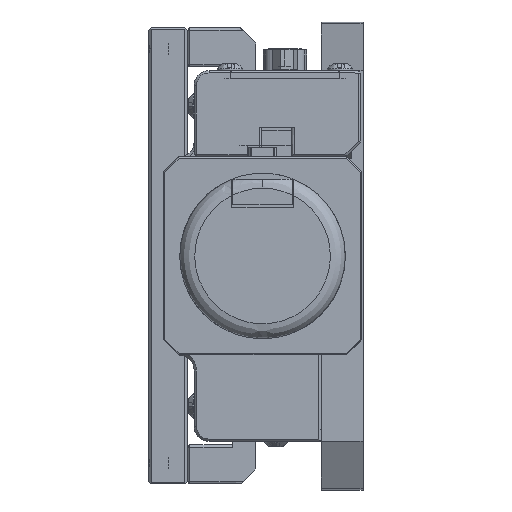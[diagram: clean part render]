
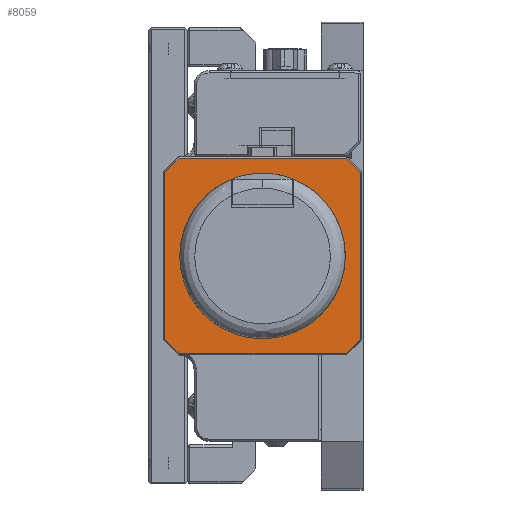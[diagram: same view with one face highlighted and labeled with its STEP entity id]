
A CAD part, left-side view. The second image highlights one B-rep face of the part: STEP entity #8059.
In plain terms, the highlighted planar face has unit normal (-1, 0, 0).
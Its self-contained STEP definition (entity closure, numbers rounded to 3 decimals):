
#8059 = ADVANCED_FACE ( 'NONE', ( #15645 ), #71780, .T. ) ;
#8723 = VECTOR ( 'NONE', #77914, 1000. ) ;
#9663 = ORIENTED_EDGE ( 'NONE', *, *, #29148, .F. ) ;
#12819 = VECTOR ( 'NONE', #82916, 1000. ) ;
#13244 = CARTESIAN_POINT ( 'NONE',  ( -120.65, 38.947, 18.542 ) ) ;
#13286 = EDGE_LOOP ( 'NONE', ( #80151, #42044, #53627, #37448, #51985, #82557, #9663, #50404 ) ) ;
#14141 = CARTESIAN_POINT ( 'NONE',  ( -120.65, 40.46, 20.055 ) ) ;
#14237 = DIRECTION ( 'NONE',  ( 0., 0.707, 0.707 ) ) ;
#14387 = DIRECTION ( 'NONE',  ( 0., 0., -1. ) ) ;
#15053 = LINE ( 'NONE', #71831, #64362 ) ;
#15239 = CARTESIAN_POINT ( 'NONE',  ( -120.65, 0.572, 60.198 ) ) ;
#15645 = FACE_OUTER_BOUND ( 'NONE', #13286, .T. ) ;
#18814 = CARTESIAN_POINT ( 'NONE',  ( -120.65, 41.974, 56.918 ) ) ;
#23434 = VECTOR ( 'NONE', #14387, 1000. ) ;
#25217 = CARTESIAN_POINT ( 'NONE',  ( -120.65, 38.947, 59.944 ) ) ;
#27641 = CARTESIAN_POINT ( 'NONE',  ( -120.65, 0.318, 59.944 ) ) ;
#27715 = DIRECTION ( 'NONE',  ( 0., -1., 0. ) ) ;
#28369 = EDGE_CURVE ( 'NONE', #58529, #38941, #37158, .T. ) ;
#28509 = EDGE_CURVE ( 'NONE', #47867, #58529, #46534, .T. ) ;
#28622 = EDGE_CURVE ( 'NONE', #64288, #47867, #71565, .T. ) ;
#28778 = EDGE_CURVE ( 'NONE', #53689, #64288, #43309, .T. ) ;
#28809 = VECTOR ( 'NONE', #71538, 1000. ) ;
#28903 = EDGE_CURVE ( 'NONE', #33568, #53689, #30737, .T. ) ;
#29021 = EDGE_CURVE ( 'NONE', #64363, #33568, #33851, .T. ) ;
#29148 = EDGE_CURVE ( 'NONE', #73754, #64363, #15053, .T. ) ;
#29157 = EDGE_CURVE ( 'NONE', #38941, #73754, #82058, .T. ) ;
#30737 = LINE ( 'NONE', #83998, #12819 ) ;
#31131 = CARTESIAN_POINT ( 'NONE',  ( -120.65, 3.598, 18.542 ) ) ;
#33568 = VERTEX_POINT ( 'NONE', #81580 ) ;
#33851 = LINE ( 'NONE', #27641, #82922 ) ;
#35066 = VECTOR ( 'NONE', #14237, 1000. ) ;
#37158 = LINE ( 'NONE', #14141, #35066 ) ;
#37448 = ORIENTED_EDGE ( 'NONE', *, *, #28778, .F. ) ;
#38941 = VERTEX_POINT ( 'NONE', #59104 ) ;
#39369 = CARTESIAN_POINT ( 'NONE',  ( -120.65, 0.572, 21.568 ) ) ;
#42044 = ORIENTED_EDGE ( 'NONE', *, *, #28509, .F. ) ;
#43309 = LINE ( 'NONE', #15239, #23434 ) ;
#46264 = AXIS2_PLACEMENT_3D ( 'NONE', #67882, #65402, #64531 ) ;
#46534 = LINE ( 'NONE', #74187, #8723 ) ;
#47867 = VERTEX_POINT ( 'NONE', #31131 ) ;
#50404 = ORIENTED_EDGE ( 'NONE', *, *, #29157, .F. ) ;
#51985 = ORIENTED_EDGE ( 'NONE', *, *, #28903, .F. ) ;
#53627 = ORIENTED_EDGE ( 'NONE', *, *, #28622, .F. ) ;
#53689 = VERTEX_POINT ( 'NONE', #55752 ) ;
#53845 = VECTOR ( 'NONE', #55844, 1000. ) ;
#55752 = CARTESIAN_POINT ( 'NONE',  ( -120.65, 0.572, 56.918 ) ) ;
#55844 = DIRECTION ( 'NONE',  ( 0., 0.707, -0.707 ) ) ;
#58529 = VERTEX_POINT ( 'NONE', #13244 ) ;
#59104 = CARTESIAN_POINT ( 'NONE',  ( -120.65, 41.974, 21.568 ) ) ;
#60519 = CARTESIAN_POINT ( 'NONE',  ( -120.65, -18.87, 41.01 ) ) ;
#64288 = VERTEX_POINT ( 'NONE', #39369 ) ;
#64362 = VECTOR ( 'NONE', #71815, 1000. ) ;
#64363 = VERTEX_POINT ( 'NONE', #25217 ) ;
#64531 = DIRECTION ( 'NONE',  ( 0., 0., 1. ) ) ;
#65402 = DIRECTION ( 'NONE',  ( -1., 0., 0. ) ) ;
#67882 = CARTESIAN_POINT ( 'NONE',  ( -120.65, 0.318, 60.198 ) ) ;
#71538 = DIRECTION ( 'NONE',  ( 0., 0., 1. ) ) ;
#71565 = LINE ( 'NONE', #60519, #53845 ) ;
#71780 = PLANE ( 'NONE',  #46264 ) ;
#71815 = DIRECTION ( 'NONE',  ( 0., -0.707, 0.707 ) ) ;
#71831 = CARTESIAN_POINT ( 'NONE',  ( -120.65, 19.505, 79.386 ) ) ;
#72721 = CARTESIAN_POINT ( 'NONE',  ( -120.65, 41.974, 18.288 ) ) ;
#73754 = VERTEX_POINT ( 'NONE', #18814 ) ;
#74187 = CARTESIAN_POINT ( 'NONE',  ( -120.65, 0.318, 18.542 ) ) ;
#77914 = DIRECTION ( 'NONE',  ( 0., 1., 0. ) ) ;
#80151 = ORIENTED_EDGE ( 'NONE', *, *, #28369, .F. ) ;
#81580 = CARTESIAN_POINT ( 'NONE',  ( -120.65, 3.598, 59.944 ) ) ;
#82058 = LINE ( 'NONE', #72721, #28809 ) ;
#82557 = ORIENTED_EDGE ( 'NONE', *, *, #29021, .F. ) ;
#82916 = DIRECTION ( 'NONE',  ( 0., -0.707, -0.707 ) ) ;
#82922 = VECTOR ( 'NONE', #27715, 1000. ) ;
#83998 = CARTESIAN_POINT ( 'NONE',  ( -120.65, 2.085, 58.431 ) ) ;
